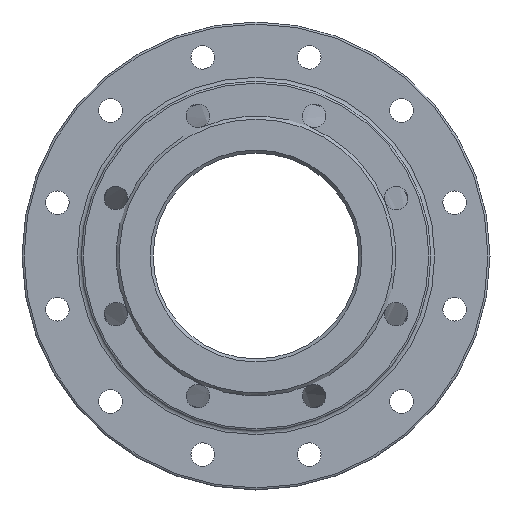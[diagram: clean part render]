
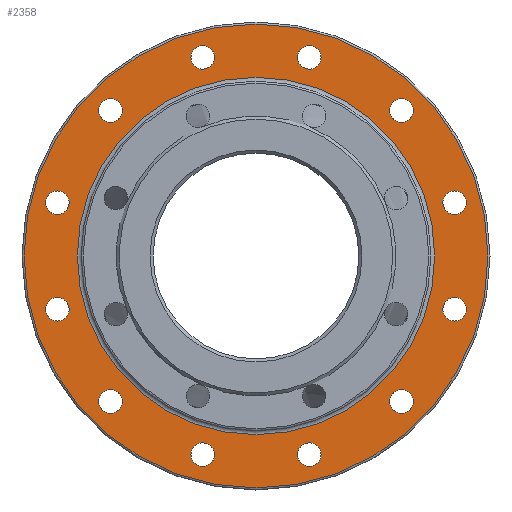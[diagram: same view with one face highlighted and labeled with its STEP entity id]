
A CAD part, left-side view. The second image highlights one B-rep face of the part: STEP entity #2358.
In plain terms, the highlighted planar face has unit normal (-1, 0, 0).
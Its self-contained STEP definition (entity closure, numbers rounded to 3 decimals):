
#5 = EDGE_CURVE ( 'NONE', #470, #470, #3068, .T. ) ;
#47 = EDGE_LOOP ( 'NONE', ( #2555 ) ) ;
#91 = CIRCLE ( 'NONE', #2237, 11.5 ) ;
#96 = FACE_BOUND ( 'NONE', #1857, .T. ) ;
#115 = FACE_BOUND ( 'NONE', #569, .T. ) ;
#148 = CARTESIAN_POINT ( 'NONE',  ( 125.5, 193.185, -51.764 ) ) ;
#165 = DIRECTION ( 'NONE',  ( 0., 0., 1. ) ) ;
#183 = AXIS2_PLACEMENT_3D ( 'NONE', #1190, #987, #1437 ) ;
#201 = CIRCLE ( 'NONE', #2384, 11.5 ) ;
#220 = EDGE_CURVE ( 'NONE', #1458, #1458, #201, .T. ) ;
#224 = AXIS2_PLACEMENT_3D ( 'NONE', #498, #1454, #2395 ) ;
#226 = AXIS2_PLACEMENT_3D ( 'NONE', #1699, #2643, #507 ) ;
#260 = CARTESIAN_POINT ( 'NONE',  ( 125.5, 193.185, -40.264 ) ) ;
#264 = EDGE_LOOP ( 'NONE', ( #2700 ) ) ;
#311 = FACE_BOUND ( 'NONE', #1970, .T. ) ;
#322 = AXIS2_PLACEMENT_3D ( 'NONE', #148, #2680, #1036 ) ;
#328 = FACE_BOUND ( 'NONE', #1021, .T. ) ;
#409 = CIRCLE ( 'NONE', #560, 11.5 ) ;
#414 = AXIS2_PLACEMENT_3D ( 'NONE', #2871, #2388, #2639 ) ;
#427 = CARTESIAN_POINT ( 'NONE',  ( 125.5, -51.764, 193.185 ) ) ;
#445 = EDGE_CURVE ( 'NONE', #771, #771, #2336, .T. ) ;
#460 = EDGE_LOOP ( 'NONE', ( #1457 ) ) ;
#470 = VERTEX_POINT ( 'NONE', #739 ) ;
#498 = CARTESIAN_POINT ( 'NONE',  ( 125.5, 193.185, 51.764 ) ) ;
#503 = DIRECTION ( 'NONE',  ( 0., 0., 1. ) ) ;
#507 = DIRECTION ( 'NONE',  ( 0., 0., 1. ) ) ;
#510 = VERTEX_POINT ( 'NONE', #1464 ) ;
#522 = DIRECTION ( 'NONE',  ( 1., 0., 0. ) ) ;
#524 = EDGE_CURVE ( 'NONE', #2434, #2434, #409, .T. ) ;
#525 = VERTEX_POINT ( 'NONE', #1950 ) ;
#532 = EDGE_LOOP ( 'NONE', ( #2276 ) ) ;
#534 = CARTESIAN_POINT ( 'NONE',  ( 125.5, -193.185, -40.264 ) ) ;
#545 = AXIS2_PLACEMENT_3D ( 'NONE', #2472, #1781, #628 ) ;
#550 = FACE_BOUND ( 'NONE', #532, .T. ) ;
#560 = AXIS2_PLACEMENT_3D ( 'NONE', #647, #1310, #2759 ) ;
#569 = EDGE_LOOP ( 'NONE', ( #2290 ) ) ;
#572 = CARTESIAN_POINT ( 'NONE',  ( 125.5, 51.764, -193.185 ) ) ;
#602 = EDGE_LOOP ( 'NONE', ( #1135 ) ) ;
#618 = CARTESIAN_POINT ( 'NONE',  ( 125.5, 0., 0. ) ) ;
#628 = DIRECTION ( 'NONE',  ( 0., 0., 1. ) ) ;
#647 = CARTESIAN_POINT ( 'NONE',  ( 125.5, -141.421, 141.421 ) ) ;
#671 = ORIENTED_EDGE ( 'NONE', *, *, #445, .T. ) ;
#696 = DIRECTION ( 'NONE',  ( 0., 0., 1. ) ) ;
#732 = ORIENTED_EDGE ( 'NONE', *, *, #2476, .T. ) ;
#739 = CARTESIAN_POINT ( 'NONE',  ( 125.5, -51.764, -181.685 ) ) ;
#771 = VERTEX_POINT ( 'NONE', #2387 ) ;
#776 = CIRCLE ( 'NONE', #226, 11.5 ) ;
#778 = CARTESIAN_POINT ( 'NONE',  ( 125.5, -193.185, 63.264 ) ) ;
#800 = DIRECTION ( 'NONE',  ( -1., 0., 0. ) ) ;
#837 = FACE_BOUND ( 'NONE', #264, .T. ) ;
#838 = ORIENTED_EDGE ( 'NONE', *, *, #1511, .T. ) ;
#841 = EDGE_CURVE ( 'NONE', #2682, #2682, #2916, .T. ) ;
#871 = DIRECTION ( 'NONE',  ( -1., 0., 0. ) ) ;
#887 = DIRECTION ( 'NONE',  ( 0., 0., 1. ) ) ;
#895 = CIRCLE ( 'NONE', #322, 11.5 ) ;
#904 = DIRECTION ( 'NONE',  ( 1., 0., 0. ) ) ;
#941 = EDGE_CURVE ( 'NONE', #1503, #1503, #91, .T. ) ;
#987 = DIRECTION ( 'NONE',  ( 1., 0., 0. ) ) ;
#1021 = EDGE_LOOP ( 'NONE', ( #671 ) ) ;
#1030 = VERTEX_POINT ( 'NONE', #260 ) ;
#1032 = AXIS2_PLACEMENT_3D ( 'NONE', #618, #800, #2727 ) ;
#1036 = DIRECTION ( 'NONE',  ( 0., 0., 1. ) ) ;
#1046 = DIRECTION ( 'NONE',  ( 1., 0., 0. ) ) ;
#1056 = EDGE_CURVE ( 'NONE', #1232, #1232, #2014, .T. ) ;
#1070 = FACE_BOUND ( 'NONE', #1836, .T. ) ;
#1107 = FACE_BOUND ( 'NONE', #47, .T. ) ;
#1112 = AXIS2_PLACEMENT_3D ( 'NONE', #1867, #1600, #696 ) ;
#1135 = ORIENTED_EDGE ( 'NONE', *, *, #1056, .F. ) ;
#1139 = EDGE_LOOP ( 'NONE', ( #1713 ) ) ;
#1190 = CARTESIAN_POINT ( 'NONE',  ( 125.5, 141.421, 141.421 ) ) ;
#1194 = DIRECTION ( 'NONE',  ( 1., 0., 0. ) ) ;
#1210 = CARTESIAN_POINT ( 'NONE',  ( 125.5, -193.185, -51.764 ) ) ;
#1232 = VERTEX_POINT ( 'NONE', #1244 ) ;
#1244 = CARTESIAN_POINT ( 'NONE',  ( 125.5, 0., 173.701 ) ) ;
#1264 = FACE_BOUND ( 'NONE', #2431, .T. ) ;
#1299 = FACE_BOUND ( 'NONE', #602, .T. ) ;
#1310 = DIRECTION ( 'NONE',  ( 1., 0., 0. ) ) ;
#1394 = AXIS2_PLACEMENT_3D ( 'NONE', #572, #1046, #887 ) ;
#1408 = EDGE_CURVE ( 'NONE', #2891, #2891, #2836, .T. ) ;
#1437 = DIRECTION ( 'NONE',  ( 0., 0., 1. ) ) ;
#1454 = DIRECTION ( 'NONE',  ( 1., 0., 0. ) ) ;
#1457 = ORIENTED_EDGE ( 'NONE', *, *, #841, .T. ) ;
#1458 = VERTEX_POINT ( 'NONE', #534 ) ;
#1464 = CARTESIAN_POINT ( 'NONE',  ( 125.5, -141.421, -129.921 ) ) ;
#1477 = DIRECTION ( 'NONE',  ( 0., 0., 1. ) ) ;
#1493 = VERTEX_POINT ( 'NONE', #1687 ) ;
#1501 = FACE_BOUND ( 'NONE', #1139, .T. ) ;
#1503 = VERTEX_POINT ( 'NONE', #2448 ) ;
#1508 = ORIENTED_EDGE ( 'NONE', *, *, #2350, .T. ) ;
#1511 = EDGE_CURVE ( 'NONE', #1493, #1493, #1528, .T. ) ;
#1528 = CIRCLE ( 'NONE', #183, 11.5 ) ;
#1600 = DIRECTION ( 'NONE',  ( 1., 0., 0. ) ) ;
#1638 = EDGE_CURVE ( 'NONE', #2167, #2167, #2510, .T. ) ;
#1687 = CARTESIAN_POINT ( 'NONE',  ( 125.5, 141.421, 152.921 ) ) ;
#1697 = EDGE_LOOP ( 'NONE', ( #732 ) ) ;
#1699 = CARTESIAN_POINT ( 'NONE',  ( 125.5, 51.764, 193.185 ) ) ;
#1713 = ORIENTED_EDGE ( 'NONE', *, *, #2742, .T. ) ;
#1741 = CARTESIAN_POINT ( 'NONE',  ( 125.5, 0., 225.5 ) ) ;
#1750 = EDGE_LOOP ( 'NONE', ( #838 ) ) ;
#1781 = DIRECTION ( 'NONE',  ( 1., 0., 0. ) ) ;
#1789 = FACE_BOUND ( 'NONE', #1697, .T. ) ;
#1836 = EDGE_LOOP ( 'NONE', ( #3070 ) ) ;
#1857 = EDGE_LOOP ( 'NONE', ( #2192 ) ) ;
#1867 = CARTESIAN_POINT ( 'NONE',  ( 125.5, -193.185, 51.764 ) ) ;
#1891 = DIRECTION ( 'NONE',  ( 0., 0., 1. ) ) ;
#1950 = CARTESIAN_POINT ( 'NONE',  ( 125.5, 51.764, 204.685 ) ) ;
#1970 = EDGE_LOOP ( 'NONE', ( #2558 ) ) ;
#1983 = AXIS2_PLACEMENT_3D ( 'NONE', #2511, #871, #2035 ) ;
#2014 = CIRCLE ( 'NONE', #414, 173.701 ) ;
#2022 = AXIS2_PLACEMENT_3D ( 'NONE', #2637, #1194, #503 ) ;
#2035 = DIRECTION ( 'NONE',  ( 0., 0., 1. ) ) ;
#2119 = CIRCLE ( 'NONE', #2022, 11.5 ) ;
#2167 = VERTEX_POINT ( 'NONE', #2411 ) ;
#2192 = ORIENTED_EDGE ( 'NONE', *, *, #5, .T. ) ;
#2220 = PLANE ( 'NONE',  #1032 ) ;
#2237 = AXIS2_PLACEMENT_3D ( 'NONE', #427, #2273, #165 ) ;
#2273 = DIRECTION ( 'NONE',  ( 1., 0., 0. ) ) ;
#2276 = ORIENTED_EDGE ( 'NONE', *, *, #3042, .T. ) ;
#2290 = ORIENTED_EDGE ( 'NONE', *, *, #1408, .T. ) ;
#2336 = CIRCLE ( 'NONE', #1394, 11.5 ) ;
#2350 = EDGE_CURVE ( 'NONE', #1030, #1030, #895, .T. ) ;
#2358 = ADVANCED_FACE ( 'NONE', ( #1264, #2956, #1107, #115, #550, #328, #2480, #1299, #96, #1070, #837, #1501, #311, #1789 ), #2220, .T. ) ;
#2384 = AXIS2_PLACEMENT_3D ( 'NONE', #1210, #522, #1477 ) ;
#2387 = CARTESIAN_POINT ( 'NONE',  ( 125.5, 51.764, -181.685 ) ) ;
#2388 = DIRECTION ( 'NONE',  ( -1., 0., 0. ) ) ;
#2395 = DIRECTION ( 'NONE',  ( 0., 0., 1. ) ) ;
#2401 = CARTESIAN_POINT ( 'NONE',  ( 125.5, -141.421, 152.921 ) ) ;
#2411 = CARTESIAN_POINT ( 'NONE',  ( 125.5, 193.185, 63.264 ) ) ;
#2431 = EDGE_LOOP ( 'NONE', ( #1508 ) ) ;
#2434 = VERTEX_POINT ( 'NONE', #2401 ) ;
#2448 = CARTESIAN_POINT ( 'NONE',  ( 125.5, -51.764, 204.685 ) ) ;
#2456 = CARTESIAN_POINT ( 'NONE',  ( 125.5, 141.421, -129.921 ) ) ;
#2472 = CARTESIAN_POINT ( 'NONE',  ( 125.5, -51.764, -193.185 ) ) ;
#2476 = EDGE_CURVE ( 'NONE', #2645, #2645, #2611, .T. ) ;
#2480 = FACE_OUTER_BOUND ( 'NONE', #460, .T. ) ;
#2510 = CIRCLE ( 'NONE', #224, 11.5 ) ;
#2511 = CARTESIAN_POINT ( 'NONE',  ( 125.5, 0., 0. ) ) ;
#2516 = AXIS2_PLACEMENT_3D ( 'NONE', #2777, #904, #1891 ) ;
#2555 = ORIENTED_EDGE ( 'NONE', *, *, #941, .T. ) ;
#2558 = ORIENTED_EDGE ( 'NONE', *, *, #1638, .T. ) ;
#2611 = CIRCLE ( 'NONE', #2516, 11.5 ) ;
#2637 = CARTESIAN_POINT ( 'NONE',  ( 125.5, -141.421, -141.421 ) ) ;
#2639 = DIRECTION ( 'NONE',  ( 0., 0., 1. ) ) ;
#2643 = DIRECTION ( 'NONE',  ( 1., 0., 0. ) ) ;
#2645 = VERTEX_POINT ( 'NONE', #2456 ) ;
#2680 = DIRECTION ( 'NONE',  ( 1., 0., 0. ) ) ;
#2682 = VERTEX_POINT ( 'NONE', #1741 ) ;
#2700 = ORIENTED_EDGE ( 'NONE', *, *, #524, .T. ) ;
#2727 = DIRECTION ( 'NONE',  ( 0., 0., 1. ) ) ;
#2742 = EDGE_CURVE ( 'NONE', #525, #525, #776, .T. ) ;
#2759 = DIRECTION ( 'NONE',  ( 0., 0., 1. ) ) ;
#2777 = CARTESIAN_POINT ( 'NONE',  ( 125.5, 141.421, -141.421 ) ) ;
#2836 = CIRCLE ( 'NONE', #1112, 11.5 ) ;
#2871 = CARTESIAN_POINT ( 'NONE',  ( 125.5, 0., 0. ) ) ;
#2891 = VERTEX_POINT ( 'NONE', #778 ) ;
#2916 = CIRCLE ( 'NONE', #1983, 225.5 ) ;
#2956 = FACE_BOUND ( 'NONE', #1750, .T. ) ;
#3042 = EDGE_CURVE ( 'NONE', #510, #510, #2119, .T. ) ;
#3068 = CIRCLE ( 'NONE', #545, 11.5 ) ;
#3070 = ORIENTED_EDGE ( 'NONE', *, *, #220, .T. ) ;
